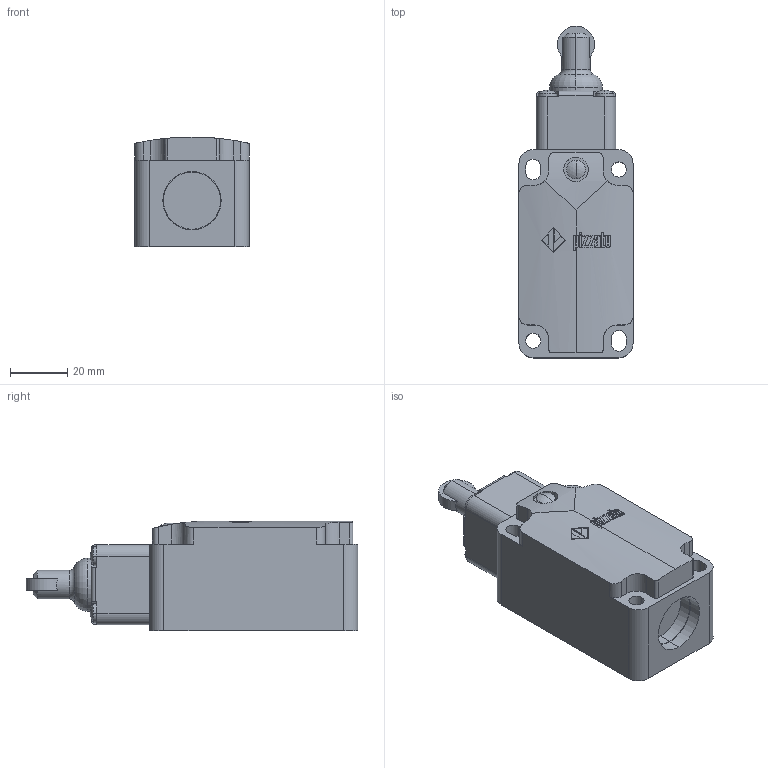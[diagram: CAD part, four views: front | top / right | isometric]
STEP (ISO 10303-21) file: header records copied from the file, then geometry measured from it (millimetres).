
FILE_DESCRIPTION (( 'STEP AP214' ), '1' );
FILE_NAME ('ZF_STEP_FP_x15.step', '2015-05-14T14:37:06', ( 'utente' ), ( 'Microsoft' ), 'SwSTEP 2.0', 'SolidWorks 2014', '' );
FILE_SCHEMA (( 'AUTOMOTIVE_DESIGN' ));
Length unit declared in the file: millimetre
Products named in the file (5): Pizzato_Custodia_FP; ZF_STEP_FP_x15; ZF_STEP_VF_T15; Pizzato_Pistoncino_T15; Pizzato_Supporto_T15
Assembly tree (4 placements, depth 3):
  ZF_STEP_FP_x15
    Pizzato_Custodia_FP
    ZF_STEP_VF_T15
      Pizzato_Supporto_T15
      Pizzato_Pistoncino_T15
Bounding box: 40 x 116.3 x 38.5 mm (x, y, z)
Volume: 115912.5 mm3; surface area: 23448.4 mm2
Topology: 3 solids, 3 shells, 423 faces, 1132 edges, 754 vertices
Faces by surface type: plane 230, bspline 97, cylinder 79, sphere 10, torus 4, cone 3
Entity records: 18448 total; most frequent: CARTESIAN_POINT 8265, ORIENTED_EDGE 2264, DIRECTION 1747, EDGE_CURVE 1132, VERTEX_POINT 754, LINE 661, VECTOR 661, AXIS2_PLACEMENT_3D 543
